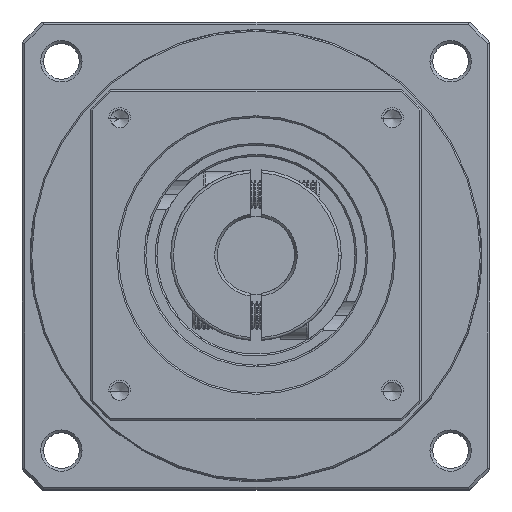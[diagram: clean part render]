
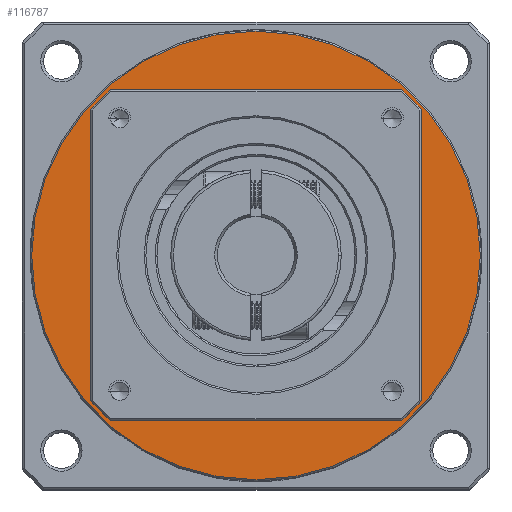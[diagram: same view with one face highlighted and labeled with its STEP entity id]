
A CAD part, top view. The second image highlights one B-rep face of the part: STEP entity #116787.
In plain terms, the highlighted planar face has unit normal (0, 0, 1).
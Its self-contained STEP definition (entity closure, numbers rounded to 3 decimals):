
#927 = DIRECTION ( 'NONE',  ( 1., 0., 0. ) ) ;
#1410 = FACE_BOUND ( 'NONE', #72624, .T. ) ;
#6184 = CARTESIAN_POINT ( 'NONE',  ( -125.661, 51.615, -25.577 ) ) ;
#8733 = CIRCLE ( 'NONE', #11720, 40.75 ) ;
#9090 = DIRECTION ( 'NONE',  ( 1., 0., 0. ) ) ;
#11072 = CARTESIAN_POINT ( 'NONE',  ( -84.911, 51.615, -25.577 ) ) ;
#11720 = AXIS2_PLACEMENT_3D ( 'NONE', #85713, #47645, #57466 ) ;
#15069 = VERTEX_POINT ( 'NONE', #100760 ) ;
#15794 = CIRCLE ( 'NONE', #104747, 30. ) ;
#25486 = ORIENTED_EDGE ( 'NONE', *, *, #99213, .T. ) ;
#30421 = DIRECTION ( 'NONE',  ( 0., 0., 1. ) ) ;
#39047 = CARTESIAN_POINT ( 'NONE',  ( -84.911, 51.615, -25.577 ) ) ;
#47645 = DIRECTION ( 'NONE',  ( 0., 0., 1. ) ) ;
#48260 = DIRECTION ( 'NONE',  ( 0., 0., 1. ) ) ;
#48993 = AXIS2_PLACEMENT_3D ( 'NONE', #69698, #30421, #927 ) ;
#49932 = ORIENTED_EDGE ( 'NONE', *, *, #123143, .F. ) ;
#50344 = FACE_OUTER_BOUND ( 'NONE', #84032, .T. ) ;
#56069 = VERTEX_POINT ( 'NONE', #98190 ) ;
#57466 = DIRECTION ( 'NONE',  ( 1., 0., 0. ) ) ;
#59179 = EDGE_CURVE ( 'NONE', #56069, #15069, #104607, .T. ) ;
#60289 = PLANE ( 'NONE',  #48993 ) ;
#62114 = EDGE_CURVE ( 'NONE', #94633, #62989, #118614, .T. ) ;
#62989 = VERTEX_POINT ( 'NONE', #6184 ) ;
#64384 = DIRECTION ( 'NONE',  ( 0., 0., 1. ) ) ;
#64795 = DIRECTION ( 'NONE',  ( 1., 0., 0. ) ) ;
#67618 = DIRECTION ( 'NONE',  ( 0., 0., 1. ) ) ;
#69698 = CARTESIAN_POINT ( 'NONE',  ( -84.911, 51.615, -25.577 ) ) ;
#72624 = EDGE_LOOP ( 'NONE', ( #49932, #87986 ) ) ;
#73773 = CARTESIAN_POINT ( 'NONE',  ( -84.911, 51.615, -25.577 ) ) ;
#78588 = DIRECTION ( 'NONE',  ( 1., 0., 0. ) ) ;
#80409 = CARTESIAN_POINT ( 'NONE',  ( -44.161, 51.615, -25.577 ) ) ;
#84032 = EDGE_LOOP ( 'NONE', ( #25486, #115402 ) ) ;
#85713 = CARTESIAN_POINT ( 'NONE',  ( -84.911, 51.615, -25.577 ) ) ;
#87986 = ORIENTED_EDGE ( 'NONE', *, *, #59179, .F. ) ;
#94633 = VERTEX_POINT ( 'NONE', #80409 ) ;
#98190 = CARTESIAN_POINT ( 'NONE',  ( -54.911, 51.615, -25.577 ) ) ;
#99213 = EDGE_CURVE ( 'NONE', #62989, #94633, #8733, .T. ) ;
#100760 = CARTESIAN_POINT ( 'NONE',  ( -114.911, 51.615, -25.577 ) ) ;
#103957 = AXIS2_PLACEMENT_3D ( 'NONE', #11072, #48260, #78588 ) ;
#104607 = CIRCLE ( 'NONE', #105957, 30. ) ;
#104747 = AXIS2_PLACEMENT_3D ( 'NONE', #39047, #67618, #9090 ) ;
#105957 = AXIS2_PLACEMENT_3D ( 'NONE', #73773, #64384, #64795 ) ;
#115402 = ORIENTED_EDGE ( 'NONE', *, *, #62114, .T. ) ;
#116787 = ADVANCED_FACE ( 'NONE', ( #1410, #50344 ), #60289, .T. ) ;
#118614 = CIRCLE ( 'NONE', #103957, 40.75 ) ;
#123143 = EDGE_CURVE ( 'NONE', #15069, #56069, #15794, .T. ) ;
